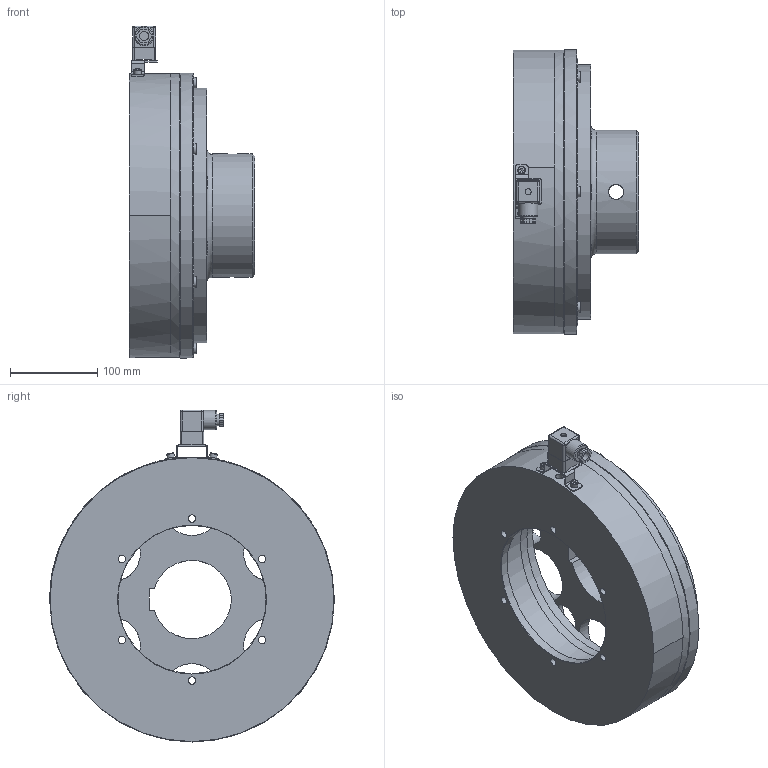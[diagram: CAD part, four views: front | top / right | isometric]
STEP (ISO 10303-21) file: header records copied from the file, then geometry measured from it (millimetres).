
FILE_DESCRIPTION(/* description */ (''),/* implementation_level */ '2;1');
FILE_NAME(/* name */ 'X:\INVENTOR\DISEGNI\08_Freni_Friz_Elettmag_Monodisco\08_28 EMFL_DF\EMFL_DF STEP\08_28_310_12 EMFL310_DF-C-ME_S@STEP.stp',/* time_stamp */ '2018-04-23T10:57:45+02:00',/* author */ ('stefano'),/* organization */ (''),/* preprocessor_version */ 'ST-DEVELOPER v17',/* originating_system */ 'Autodesk Inventor 2018',/* authorisation */ '');
FILE_SCHEMA (('AUTOMOTIVE_DESIGN { 1 0 10303 214 3 1 1 }'));
Length unit declared in the file: millimetre
Products named in the file (1): 08_28_310_12 EMFL310_DF-C-ME - Spina_Substitute_1
Bounding box: 144 x 327 x 381.11 mm (x, y, z)
Volume: 4714256.1 mm3; surface area: 595379.6 mm2
Topology: 3 solids, 3 shells, 617 faces, 1857 edges, 1245 vertices
Faces by surface type: cylinder 333, plane 218, cone 52, torus 10, sphere 4
Full cylindrical faces by diameter (mm): 2 x1, 3 x12, 5 x2, 7 x1, 8.1 x12, 8.376 x6, 8.5 x8, 9 x2, 10.5 x1, 12 x12, 13 x1, 15 x12, 16 x6, 17.294 x2, 22 x1, 35 x6, 65 x6, 142 x1, 170 x1, 202 x2, 214 x1, 238 x1, 292 x1, 300 x1, 326 x1, 327 x1
Entity records: 22640 total; most frequent: CARTESIAN_POINT 4269, DIRECTION 4101, ORIENTED_EDGE 3696, EDGE_CURVE 1848, AXIS2_PLACEMENT_3D 1722, VERTEX_POINT 1249, CIRCLE 1104, EDGE_LOOP 771
